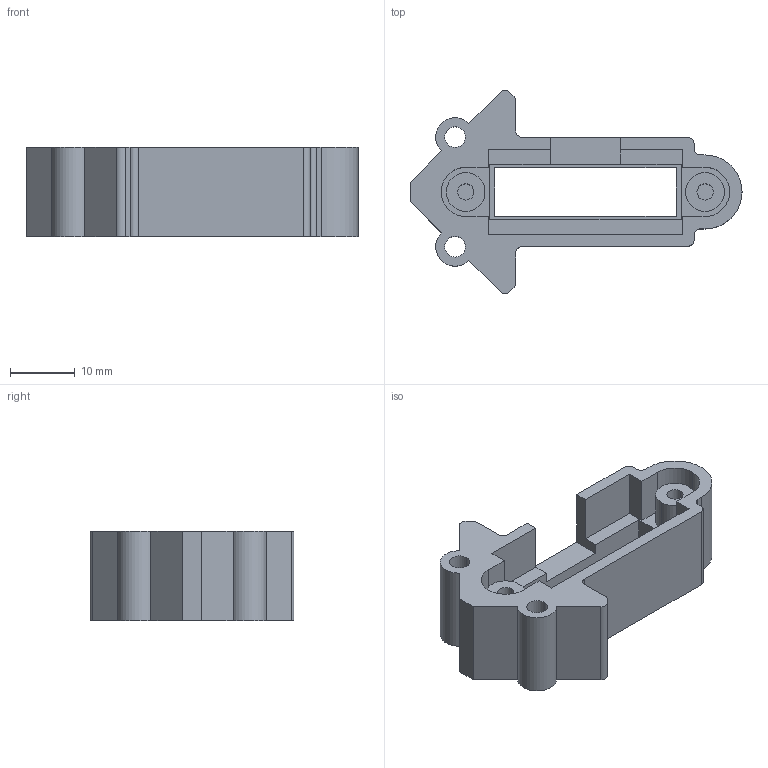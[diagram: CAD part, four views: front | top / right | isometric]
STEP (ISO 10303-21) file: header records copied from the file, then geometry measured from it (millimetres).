
FILE_DESCRIPTION (( 'STEP AP214' ), '1' );
FILE_NAME ('IR_Cover_Front.STEP', '2025-11-07T13:39:29', ( '' ), ( '' ), 'SwSTEP 2.0', 'SolidWorks 2025', '' );
FILE_SCHEMA (( 'AUTOMOTIVE_DESIGN' ));
Length unit declared in the file: millimetre
Products named in the file (1): IR_Cover_Front
Bounding box: 51.21 x 31.4 x 13.8 mm (x, y, z)
Volume: 6615 mm3; surface area: 5059.8 mm2
Topology: 1 solids, 1 shells, 74 faces, 204 edges, 136 vertices
Faces by surface type: plane 46, cylinder 28
Entity records: 2399 total; most frequent: CARTESIAN_POINT 415, DIRECTION 410, ORIENTED_EDGE 408, EDGE_CURVE 204, LINE 148, VECTOR 148, VERTEX_POINT 136, AXIS2_PLACEMENT_3D 131
